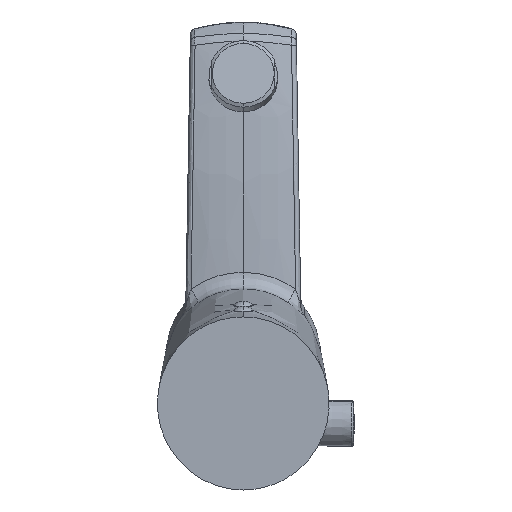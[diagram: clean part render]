
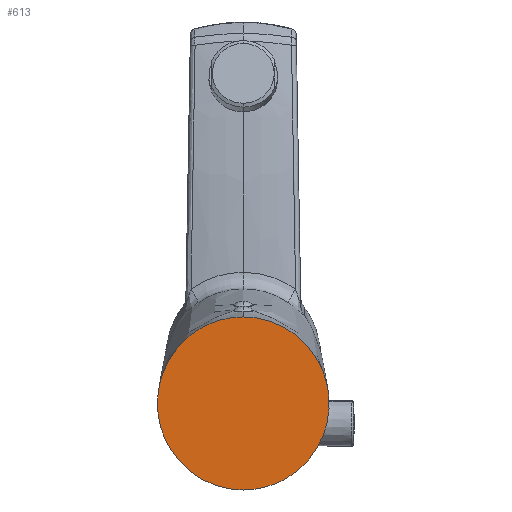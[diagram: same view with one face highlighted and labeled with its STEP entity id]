
A CAD part, front view. The second image highlights one B-rep face of the part: STEP entity #613.
In plain terms, the highlighted planar face has unit normal (0, -1, 0).
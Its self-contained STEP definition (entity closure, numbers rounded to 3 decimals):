
#38 = VERTEX_POINT ( 'NONE', #4596 ) ;
#96 = PLANE ( 'NONE',  #339 ) ;
#339 = AXIS2_PLACEMENT_3D ( 'NONE', #2953, #2797, #1918 ) ;
#464 =( BOUNDED_CURVE ( )  B_SPLINE_CURVE ( 3, ( #1116, #656, #4384, #1945 ),
 .UNSPECIFIED., .F., .F. ) 
 B_SPLINE_CURVE_WITH_KNOTS ( ( 4, 4 ),
 ( 3.142, 6.283 ),
 .UNSPECIFIED. ) 
 CURVE ( )  GEOMETRIC_REPRESENTATION_ITEM ( )  RATIONAL_B_SPLINE_CURVE ( ( 1., 0.333, 0.333, 1. ) ) 
 REPRESENTATION_ITEM ( '' )  );
#613 = ADVANCED_FACE ( 'NONE', ( #4046 ), #96, .F. ) ;
#656 = CARTESIAN_POINT ( 'NONE',  ( 59.996, 0.557, 29.006 ) ) ;
#800 = CARTESIAN_POINT ( 'NONE',  ( 0., 0.557, -31.441 ) ) ;
#835 = CARTESIAN_POINT ( 'NONE',  ( 0., 0.557, 29.006 ) ) ;
#1116 = CARTESIAN_POINT ( 'NONE',  ( 0., 0.557, 29.006 ) ) ;
#1918 = DIRECTION ( 'NONE',  ( 0., 0., 1. ) ) ;
#1945 = CARTESIAN_POINT ( 'NONE',  ( 0., 0.557, -31.441 ) ) ;
#2291 =( BOUNDED_CURVE ( )  B_SPLINE_CURVE ( 3, ( #5322, #4056, #3279, #835 ),
 .UNSPECIFIED., .F., .F. ) 
 B_SPLINE_CURVE_WITH_KNOTS ( ( 4, 4 ),
 ( 0., 3.142 ),
 .UNSPECIFIED. ) 
 CURVE ( )  GEOMETRIC_REPRESENTATION_ITEM ( )  RATIONAL_B_SPLINE_CURVE ( ( 1., 0.333, 0.333, 1. ) ) 
 REPRESENTATION_ITEM ( '' )  );
#2797 = DIRECTION ( 'NONE',  ( 0., 1., 0. ) ) ;
#2824 = EDGE_CURVE ( 'NONE', #38, #3688, #464, .T. ) ;
#2953 = CARTESIAN_POINT ( 'NONE',  ( -253.055, 0.557, -54.334 ) ) ;
#3279 = CARTESIAN_POINT ( 'NONE',  ( -59.996, 0.557, 29.006 ) ) ;
#3508 = ORIENTED_EDGE ( 'NONE', *, *, #3696, .F. ) ;
#3688 = VERTEX_POINT ( 'NONE', #800 ) ;
#3696 = EDGE_CURVE ( 'NONE', #3688, #38, #2291, .T. ) ;
#4046 = FACE_OUTER_BOUND ( 'NONE', #4943, .T. ) ;
#4056 = CARTESIAN_POINT ( 'NONE',  ( -59.996, 0.557, -31.441 ) ) ;
#4265 = ORIENTED_EDGE ( 'NONE', *, *, #2824, .F. ) ;
#4384 = CARTESIAN_POINT ( 'NONE',  ( 59.996, 0.557, -31.441 ) ) ;
#4596 = CARTESIAN_POINT ( 'NONE',  ( 0., 0.557, 29.006 ) ) ;
#4943 = EDGE_LOOP ( 'NONE', ( #3508, #4265 ) ) ;
#5322 = CARTESIAN_POINT ( 'NONE',  ( 0., 0.557, -31.441 ) ) ;
